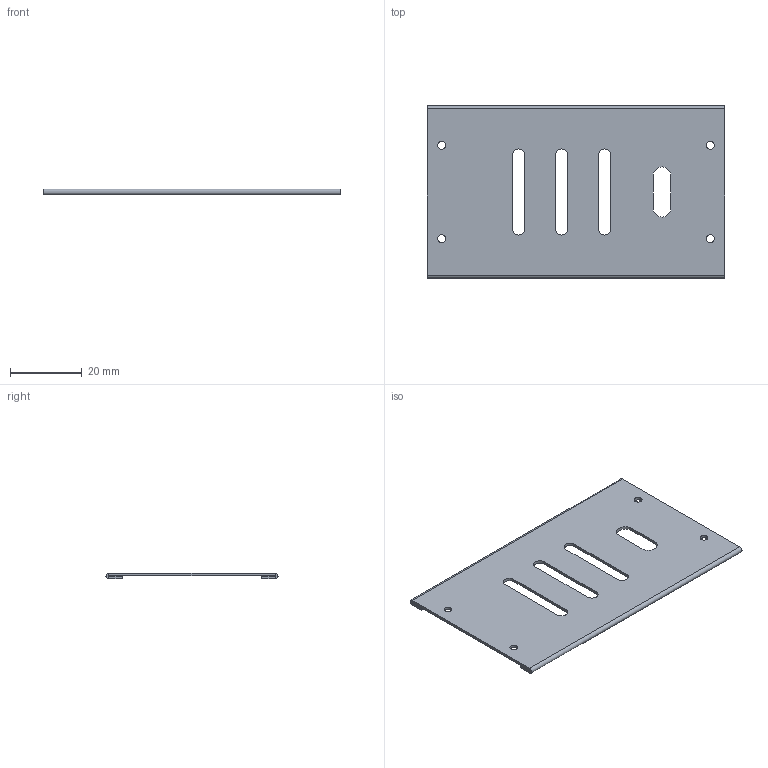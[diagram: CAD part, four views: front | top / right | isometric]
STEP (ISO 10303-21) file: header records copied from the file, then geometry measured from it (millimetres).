
FILE_DESCRIPTION(/* description */ (''),/* implementation_level */ '2;1');
FILE_NAME(/* name */ 'PDB-02-202_Service_Access_Hatch_R01.step',/* time_stamp */ '2026-11-24T01:50:38+05:00',/* author */ (''),/* organization */ (''),/* preprocessor_version */ 'ST-DEVELOPER v20.2',/* originating_system */ 'Autodesk Translation Framework v15.17.0.0',/* authorisation */ '');
FILE_SCHEMA (('AUTOMOTIVE_DESIGN { 1 0 10303 214 3 1 1 }'));
Length unit declared in the file: centimetre
Products named in the file (1): 2026-11-24-01-50-38-236
Bounding box: 83 x 48 x 1.62 mm (x, y, z)
Volume: 3481.6 mm3; surface area: 9100.7 mm2
Topology: 1 solids, 1 shells, 42 faces, 104 edges, 64 vertices
Faces by surface type: plane 26, cylinder 16
Full cylindrical faces by diameter (mm): 2.2 x4
Entity records: 1297 total; most frequent: DIRECTION 222, CARTESIAN_POINT 211, ORIENTED_EDGE 208, EDGE_CURVE 104, AXIS2_PLACEMENT_3D 75, LINE 72, VECTOR 72, VERTEX_POINT 64
